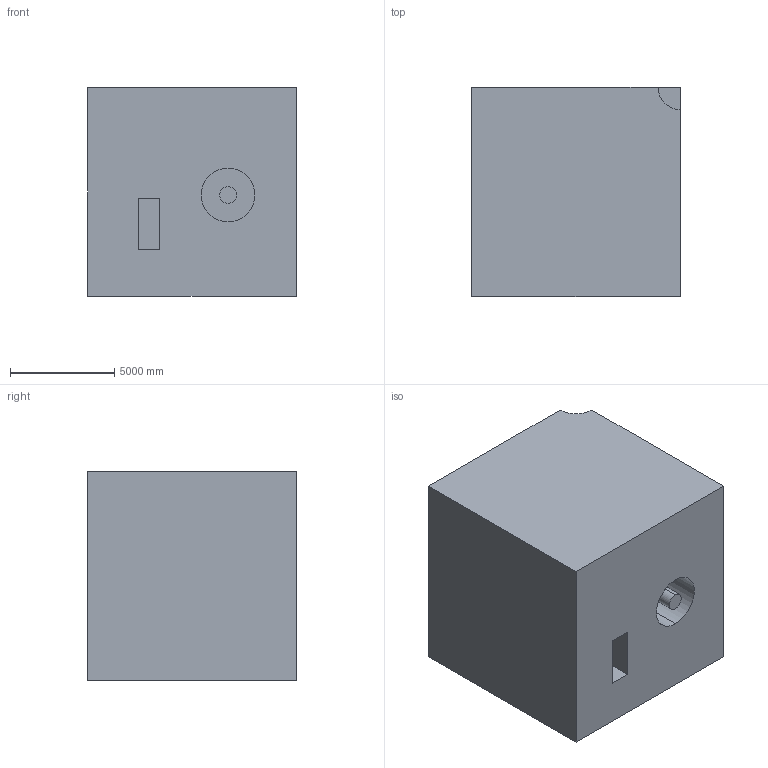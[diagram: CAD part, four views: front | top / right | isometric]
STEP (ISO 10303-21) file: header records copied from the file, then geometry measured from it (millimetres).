
FILE_DESCRIPTION (( 'STEP AP203' ), '1' );
FILE_NAME ('405.STEP', '2022-07-29T11:09:04', ( 'user' ), ( '' ), 'SwSTEP 2.0', 'SolidWorks 2021', '' );
FILE_SCHEMA (( 'CONFIG_CONTROL_DESIGN' ));
Length unit declared in the file: centimetre
Products named in the file (1): 405
Bounding box: 10000 x 10000 x 10000 mm (x, y, z)
Volume: 921444028238.7 mm3; surface area: 738229911.5 mm2
Topology: 1 solids, 1 shells, 25 faces, 57 edges, 38 vertices
Faces by surface type: plane 18, cylinder 7
Entity records: 782 total; most frequent: DIRECTION 123, CARTESIAN_POINT 121, ORIENTED_EDGE 114, EDGE_CURVE 57, VECTOR 43, LINE 43, AXIS2_PLACEMENT_3D 40, VERTEX_POINT 38
